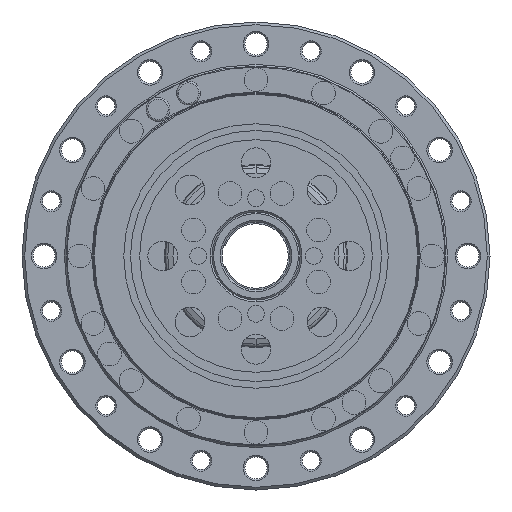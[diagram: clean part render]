
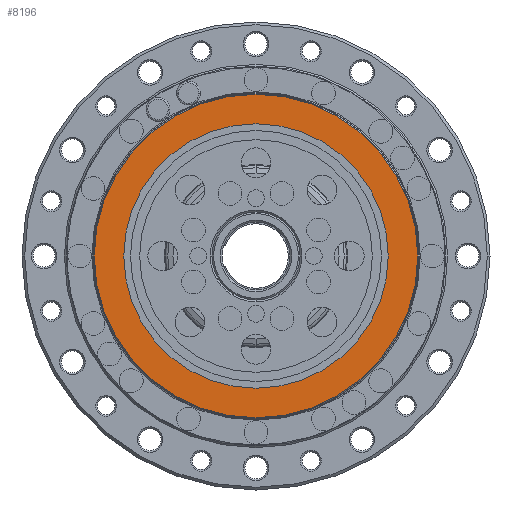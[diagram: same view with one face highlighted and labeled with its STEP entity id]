
A CAD part, front view. The second image highlights one B-rep face of the part: STEP entity #8196.
In plain terms, the highlighted planar face has unit normal (0, -1, 0).
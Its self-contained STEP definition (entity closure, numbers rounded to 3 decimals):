
#5942=CARTESIAN_POINT('',(0.,-21.5,0.));
#5943=DIRECTION('',(0.,1.,0.));
#5944=DIRECTION('',(0.,0.,1.));
#5945=AXIS2_PLACEMENT_3D('',#5942,#5943,#5944);
#5950=CARTESIAN_POINT('',(0.,-21.5,0.));
#5951=DIRECTION('',(0.,1.,0.));
#5952=DIRECTION('',(0.,0.,-1.));
#5953=AXIS2_PLACEMENT_3D('',#5950,#5951,#5952);
#5958=CARTESIAN_POINT('',(0.,-21.5,0.));
#5959=DIRECTION('',(0.,-1.,0.));
#5960=DIRECTION('',(0.,0.,1.));
#5961=AXIS2_PLACEMENT_3D('',#5958,#5959,#5960);
#5966=CARTESIAN_POINT('',(0.,-21.5,0.));
#5967=DIRECTION('',(0.,-1.,0.));
#5968=DIRECTION('',(0.,0.,-1.));
#5969=AXIS2_PLACEMENT_3D('',#5966,#5967,#5968);
#7313=CARTESIAN_POINT('',(0.,-21.5,39.));
#7314=VERTEX_POINT('',#7313);
#7315=CARTESIAN_POINT('',(0.,-21.5,-39.));
#7316=VERTEX_POINT('',#7315);
#7509=CARTESIAN_POINT('',(0.,-21.5,47.7));
#7510=VERTEX_POINT('',#7509);
#7511=CARTESIAN_POINT('',(0.,-21.5,-47.7));
#7512=VERTEX_POINT('',#7511);
#8182=CARTESIAN_POINT('',(-40.6,-21.5,0.));
#8183=DIRECTION('',(0.,-1.,0.));
#8184=DIRECTION('',(0.,0.,-1.));
#8185=AXIS2_PLACEMENT_3D('',#8182,#8183,#8184);
#8186=PLANE('',#8185);
#8187=ORIENTED_EDGE('',*,*,#8176,.T.);
#8188=ORIENTED_EDGE('',*,*,#8162,.T.);
#8189=EDGE_LOOP('',(#8187,#8188));
#8190=FACE_OUTER_BOUND('',#8189,.F.);
#8192=ORIENTED_EDGE('',*,*,#8191,.T.);
#8193=ORIENTED_EDGE('',*,*,#7706,.T.);
#8194=EDGE_LOOP('',(#8192,#8193));
#8195=FACE_BOUND('',#8194,.F.);
#5946=CIRCLE('',#5945,47.7);
#5954=CIRCLE('',#5953,47.7);
#5962=CIRCLE('',#5961,39.);
#5970=CIRCLE('',#5969,39.);
#7706=EDGE_CURVE('',#7316,#7314,#5970,.T.);
#8162=EDGE_CURVE('',#7512,#7510,#5954,.T.);
#8176=EDGE_CURVE('',#7510,#7512,#5946,.T.);
#8191=EDGE_CURVE('',#7314,#7316,#5962,.T.);
#8196=ADVANCED_FACE('',(#8190,#8195),#8186,.T.);
